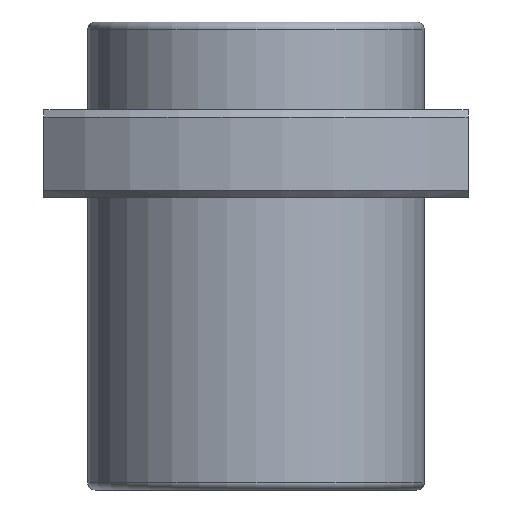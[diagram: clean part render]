
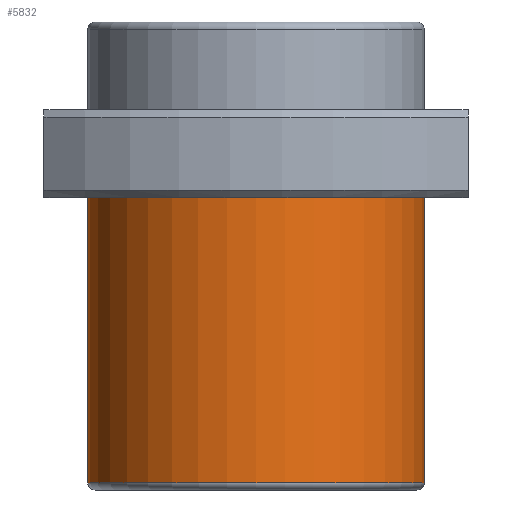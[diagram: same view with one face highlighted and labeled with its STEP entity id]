
A CAD part, front view. The second image highlights one B-rep face of the part: STEP entity #5832.
In plain terms, the highlighted cylindrical face has radius 11.5 mm (diameter 23 mm), a full revolution.
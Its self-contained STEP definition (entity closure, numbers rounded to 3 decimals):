
#94=CYLINDRICAL_SURFACE('',#6206,11.5);
#124=CIRCLE('',#6207,11.5);
#125=CIRCLE('',#6208,11.5);
#1765=ORIENTED_EDGE('',*,*,#3455,.T.);
#1766=ORIENTED_EDGE('',*,*,#3456,.T.);
#3455=EDGE_CURVE('',#4299,#4299,#124,.T.);
#3456=EDGE_CURVE('',#4300,#4300,#125,.F.);
#4299=VERTEX_POINT('',#9255);
#4300=VERTEX_POINT('',#9257);
#4787=EDGE_LOOP('',(#1765));
#4788=EDGE_LOOP('',(#1766));
#5203=FACE_BOUND('',#4787,.T.);
#5204=FACE_BOUND('',#4788,.T.);
#5832=ADVANCED_FACE('',(#5203,#5204),#94,.T.);
#6206=AXIS2_PLACEMENT_3D('',#9253,#6746,#6747);
#6207=AXIS2_PLACEMENT_3D('',#9254,#6748,#6749);
#6208=AXIS2_PLACEMENT_3D('',#9256,#6750,#6751);
#6746=DIRECTION('',(0.,0.,1.));
#6747=DIRECTION('',(1.,0.,0.));
#6748=DIRECTION('',(0.,0.,1.));
#6749=DIRECTION('',(1.,0.,0.));
#6750=DIRECTION('',(0.,0.,1.));
#6751=DIRECTION('',(1.,0.,0.));
#9253=CARTESIAN_POINT('',(0.,0.,-26.));
#9254=CARTESIAN_POINT('',(0.,0.,-25.5));
#9255=CARTESIAN_POINT('',(11.5,0.,-25.5));
#9256=CARTESIAN_POINT('',(0.,0.,-6.));
#9257=CARTESIAN_POINT('',(11.5,0.,-6.));
